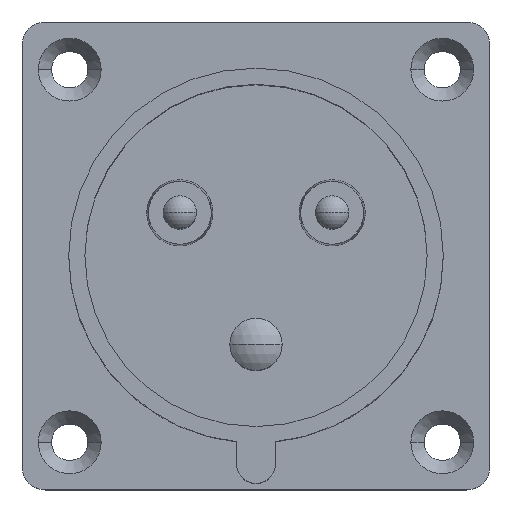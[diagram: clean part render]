
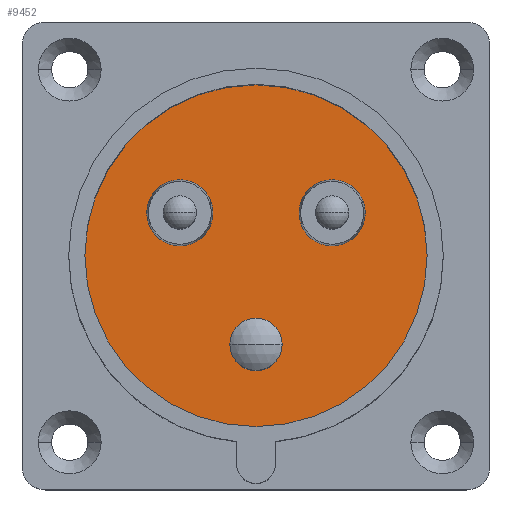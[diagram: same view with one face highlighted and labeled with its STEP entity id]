
A CAD part, top view. The second image highlights one B-rep face of the part: STEP entity #9452.
In plain terms, the highlighted planar face has unit normal (0, 0, 1).
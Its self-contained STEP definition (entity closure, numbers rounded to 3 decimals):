
#754 = ORIENTED_EDGE ( 'NONE', *, *, #1307, .F. ) ;
#755 = ORIENTED_EDGE ( 'NONE', *, *, #1291, .F. ) ;
#757 = ORIENTED_EDGE ( 'NONE', *, *, #1110, .F. ) ;
#758 = ORIENTED_EDGE ( 'NONE', *, *, #1267, .T. ) ;
#759 = ORIENTED_EDGE ( 'NONE', *, *, #1109, .T. ) ;
#760 = ORIENTED_EDGE ( 'NONE', *, *, #1108, .T. ) ;
#761 = ORIENTED_EDGE ( 'NONE', *, *, #1314, .T. ) ;
#762 = ORIENTED_EDGE ( 'NONE', *, *, #1111, .F. ) ;
#1108 = EDGE_CURVE ( 'NONE', #5392, #5148, #9509, .T. ) ;
#1109 = EDGE_CURVE ( 'NONE', #5402, #5161, #9510, .T. ) ;
#1110 = EDGE_CURVE ( 'NONE', #5420, #8261, #9656, .T. ) ;
#1111 = EDGE_CURVE ( 'NONE', #5404, #5403, #9583, .T. ) ;
#1267 = EDGE_CURVE ( 'NONE', #5161, #5402, #10078, .T. ) ;
#1291 = EDGE_CURVE ( 'NONE', #8261, #5420, #10062, .T. ) ;
#1307 = EDGE_CURVE ( 'NONE', #5403, #5404, #10035, .T. ) ;
#1314 = EDGE_CURVE ( 'NONE', #5148, #5392, #10029, .T. ) ;
#1690 = FACE_BOUND ( 'NONE', #5082, .T. ) ;
#1956 = AXIS2_PLACEMENT_3D ( 'NONE', #4288, #4289, #4290 ) ;
#1973 = FACE_BOUND ( 'NONE', #5085, .T. ) ;
#2013 = FACE_OUTER_BOUND ( 'NONE', #5083, .T. ) ;
#2021 = FACE_BOUND ( 'NONE', #5084, .T. ) ;
#2618 = AXIS2_PLACEMENT_3D ( 'NONE', #5922, #5923, #5924 ) ;
#2908 = AXIS2_PLACEMENT_3D ( 'NONE', #9019, #9020, #9021 ) ;
#2937 = AXIS2_PLACEMENT_3D ( 'NONE', #5868, #5875, #5876 ) ;
#2941 = AXIS2_PLACEMENT_3D ( 'NONE', #9022, #9023, #9024 ) ;
#2951 = AXIS2_PLACEMENT_3D ( 'NONE', #9025, #9026, #9027 ) ;
#2983 = AXIS2_PLACEMENT_3D ( 'NONE', #5943, #5944, #5945 ) ;
#3058 = AXIS2_PLACEMENT_3D ( 'NONE', #5802, #5803, #5804 ) ;
#3090 = AXIS2_PLACEMENT_3D ( 'NONE', #9010, #9017, #9018 ) ;
#3783 = CARTESIAN_POINT ( 'NONE',  ( 6.5, 6.519, 4.2 ) ) ;
#3796 = CARTESIAN_POINT ( 'NONE',  ( -25.85, 0., 4.2 ) ) ;
#4027 = CARTESIAN_POINT ( 'NONE',  ( 16.5, 6.519, 4.2 ) ) ;
#4037 = CARTESIAN_POINT ( 'NONE',  ( 25.85, 0., 4.2 ) ) ;
#4038 = CARTESIAN_POINT ( 'NONE',  ( -6.5, 6.519, 4.2 ) ) ;
#4039 = CARTESIAN_POINT ( 'NONE',  ( -16.5, 6.519, 4.2 ) ) ;
#4055 = CARTESIAN_POINT ( 'NONE',  ( -3.95, -13.4, 4.2 ) ) ;
#4146 = CARTESIAN_POINT ( 'NONE',  ( 3.95, -13.4, 4.2 ) ) ;
#4287 = PLANE ( 'NONE',  #1956 ) ;
#4288 = CARTESIAN_POINT ( 'NONE',  ( 0., 0., 4.2 ) ) ;
#4289 = DIRECTION ( 'NONE',  ( 0., 0., -1. ) ) ;
#4290 = DIRECTION ( 'NONE',  ( -1., 0., 0. ) ) ;
#5082 = EDGE_LOOP ( 'NONE', ( #761, #760 ) ) ;
#5083 = EDGE_LOOP ( 'NONE', ( #758, #759 ) ) ;
#5084 = EDGE_LOOP ( 'NONE', ( #757, #755 ) ) ;
#5085 = EDGE_LOOP ( 'NONE', ( #762, #754 ) ) ;
#5148 = VERTEX_POINT ( 'NONE', #3783 ) ;
#5161 = VERTEX_POINT ( 'NONE', #3796 ) ;
#5392 = VERTEX_POINT ( 'NONE', #4027 ) ;
#5402 = VERTEX_POINT ( 'NONE', #4037 ) ;
#5403 = VERTEX_POINT ( 'NONE', #4038 ) ;
#5404 = VERTEX_POINT ( 'NONE', #4039 ) ;
#5420 = VERTEX_POINT ( 'NONE', #4055 ) ;
#5802 = CARTESIAN_POINT ( 'NONE',  ( 0., 0., 4.2 ) ) ;
#5803 = DIRECTION ( 'NONE',  ( 0., 0., 1. ) ) ;
#5804 = DIRECTION ( 'NONE',  ( 1., 0., 0. ) ) ;
#5868 = CARTESIAN_POINT ( 'NONE',  ( 0., -13.4, 4.2 ) ) ;
#5875 = DIRECTION ( 'NONE',  ( 0., 0., 1. ) ) ;
#5876 = DIRECTION ( 'NONE',  ( -1., 0., 0. ) ) ;
#5922 = CARTESIAN_POINT ( 'NONE',  ( -11.5, 6.519, 4.2 ) ) ;
#5923 = DIRECTION ( 'NONE',  ( 0., 0., 1. ) ) ;
#5924 = DIRECTION ( 'NONE',  ( -1., 0., 0. ) ) ;
#5943 = CARTESIAN_POINT ( 'NONE',  ( 11.5, 6.519, 4.2 ) ) ;
#5944 = DIRECTION ( 'NONE',  ( 0., 0., -1. ) ) ;
#5945 = DIRECTION ( 'NONE',  ( -1., 0., 0. ) ) ;
#8261 = VERTEX_POINT ( 'NONE', #4146 ) ;
#9010 = CARTESIAN_POINT ( 'NONE',  ( 11.5, 6.519, 4.2 ) ) ;
#9017 = DIRECTION ( 'NONE',  ( 0., 0., -1. ) ) ;
#9018 = DIRECTION ( 'NONE',  ( -1., 0., 0. ) ) ;
#9019 = CARTESIAN_POINT ( 'NONE',  ( 0., 0., 4.2 ) ) ;
#9020 = DIRECTION ( 'NONE',  ( 0., 0., 1. ) ) ;
#9021 = DIRECTION ( 'NONE',  ( 1., 0., 0. ) ) ;
#9022 = CARTESIAN_POINT ( 'NONE',  ( 0., -13.4, 4.2 ) ) ;
#9023 = DIRECTION ( 'NONE',  ( 0., 0., 1. ) ) ;
#9024 = DIRECTION ( 'NONE',  ( -1., 0., 0. ) ) ;
#9025 = CARTESIAN_POINT ( 'NONE',  ( -11.5, 6.519, 4.2 ) ) ;
#9026 = DIRECTION ( 'NONE',  ( 0., 0., 1. ) ) ;
#9027 = DIRECTION ( 'NONE',  ( -1., 0., 0. ) ) ;
#9452 = ADVANCED_FACE ( 'NONE', ( #1690, #2013, #2021, #1973 ), #4287, .F. ) ;
#9509 = CIRCLE ( 'NONE', #3090, 5. ) ;
#9510 = CIRCLE ( 'NONE', #2908, 25.85 ) ;
#9583 = CIRCLE ( 'NONE', #2951, 5. ) ;
#9656 = CIRCLE ( 'NONE', #2941, 3.95 ) ;
#10029 = CIRCLE ( 'NONE', #2983, 5. ) ;
#10035 = CIRCLE ( 'NONE', #2618, 5. ) ;
#10062 = CIRCLE ( 'NONE', #2937, 3.95 ) ;
#10078 = CIRCLE ( 'NONE', #3058, 25.85 ) ;
